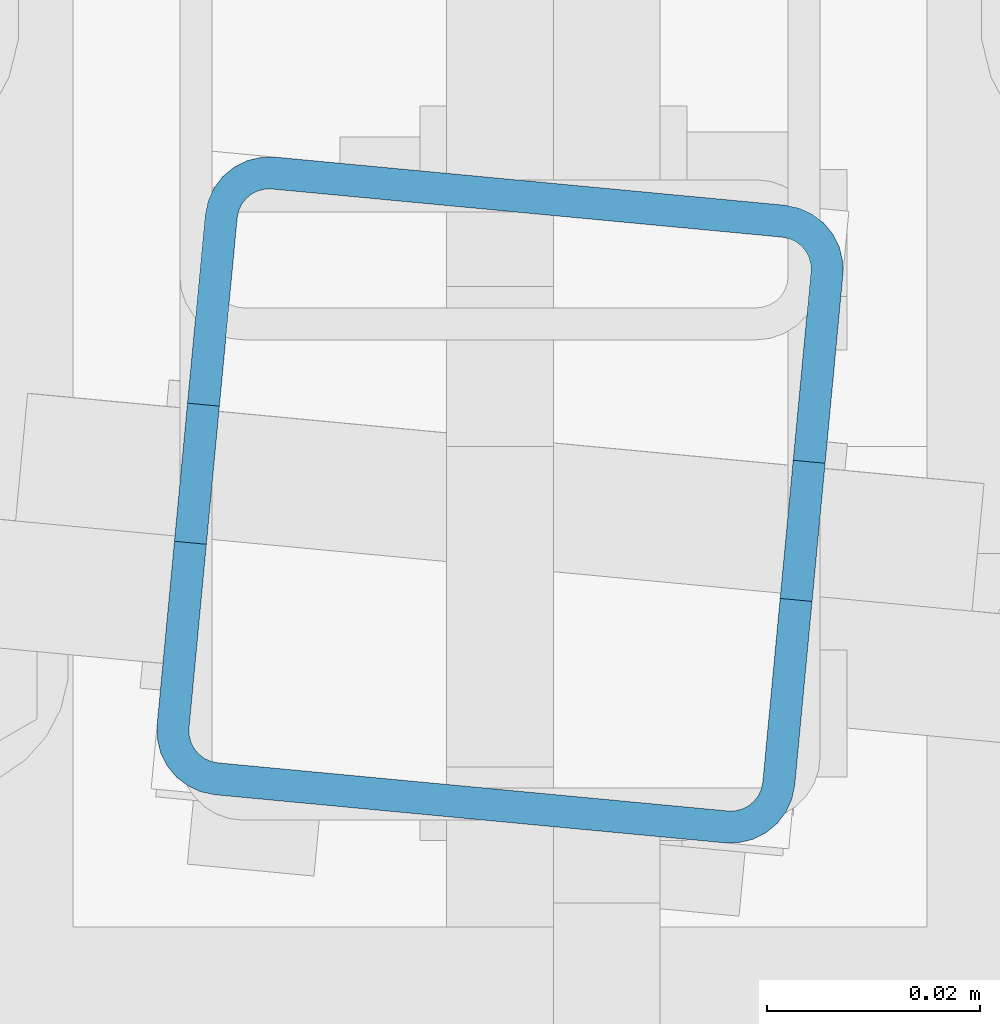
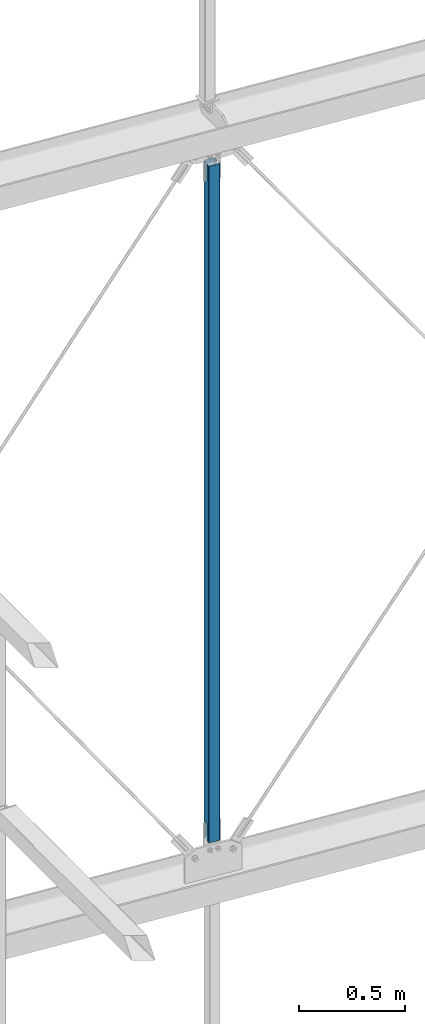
# One storey, part 33 of 271: 1 beam, 1 element without a shape of its own.
"""IFC2X3 building model written with IfcOpenShell, lengths in millimetres."""

from ifc_helpers import new_model, si_unit, frame, origin_with_axes, origin_2d_with_axis, place, context, subcontext, project, spatial, rectangle, hollow_rectangle, extrude, boolean, halfspace, material, type_object, element, aggregate, save


model = new_model("IFC2X3")

# Units and contexts
model_context = context("Model", 3, precision=1e-05, world=origin_with_axes())
body_context = subcontext(model_context, "Body", "Model", "MODEL_VIEW")
ifc_project = project(units=[si_unit("LENGTHUNIT", "METRE", prefix="MILLI"), si_unit("AREAUNIT", "SQUARE_METRE"), si_unit("VOLUMEUNIT", "CUBIC_METRE"), si_unit("MASSUNIT", "GRAM", prefix="KILO"), si_unit("TIMEUNIT", "SECOND"), si_unit("PLANEANGLEUNIT", "RADIAN"), si_unit("SOLIDANGLEUNIT", "STERADIAN"), si_unit("THERMODYNAMICTEMPERATUREUNIT", "DEGREE_CELSIUS"), si_unit("LUMINOUSINTENSITYUNIT", "LUMEN")], contexts=[model_context])

# Site, building, storey
site_placement = place(None, origin_with_axes())
site = spatial("IfcSite", under=ifc_project, at=site_placement, Name="Undefined", CompositionType="ELEMENT")
building_placement = place(site_placement, origin_with_axes())
building = spatial("IfcBuilding", under=site, at=building_placement, Name="Undefined", CompositionType="ELEMENT")
storey_placement = place(building_placement, origin_with_axes())
storey = spatial("IfcBuildingStorey", under=building, at=storey_placement, Name="Undefined", CompositionType="ELEMENT", Elevation=0.0)

# Assembly, beam
assembly_placement = place(storey_placement, origin_with_axes())
assembly = element("IfcElementAssembly", 1, at=assembly_placement, inside=storey, AssemblyPlace="NOTDEFINED", PredefinedType="RIGID_FRAME")
ifc_material = material(Name="STEEL/S355JR")
beam_type = type_object("IfcBeamType", Name="SHS60*3", PredefinedType="NOTDEFINED")
beam_placement = place(assembly_placement, frame((3168.37568709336, 4005.32498425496, 14324.3499999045), z_axis=(0.093934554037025, 0.995578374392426, 0.0), x_axis=(0.0, 0.0, 1.0)))
beam = element("IfcBeam", 2, at=beam_placement, type_object=beam_type, material=ifc_material, Name="TĘŻNIK", ObjectType="SHS60*3", context=body_context, shape_type="CSG", body=[
    boolean("DIFFERENCE", boolean("DIFFERENCE", boolean("DIFFERENCE", boolean("DIFFERENCE", extrude(hollow_rectangle(XDim=60.0, YDim=60.0, WallThickness=3.0, InnerFilletRadius=3.0, OuterFilletRadius=6.0, at=origin_2d_with_axis()), frame((4320.0, 0.0, 9.09494701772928e-13), z_axis=(-1.0, 0.0, 1.38777878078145e-17), x_axis=(0.0, -1.0, 0.0)), (0.0, 0.0, 1.0), 4320.0), extrude(rectangle(XDim=13.0, YDim=64.0, at=origin_2d_with_axis()), frame((313.312618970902, 2.39387509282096e-06, -0.199285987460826), z_axis=(-1.0, 0.0, 1.38777878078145e-17), x_axis=(0.0, 1.20121738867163e-05, -0.999999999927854)), (0.0, 0.0, 1.0), 103.0)), extrude(rectangle(XDim=13.0, YDim=64.0, at=origin_2d_with_axis()), frame((4006.68851017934, 2.57584542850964e-06, -0.214439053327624), z_axis=(1.0, 0.0, 0.0), x_axis=(0.0, 1.20121738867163e-05, -0.999999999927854)), (0.0, 0.0, 1.0), 103.0)), halfspace(frame((4107.68854069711, 0.000218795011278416, -18.2144390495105), z_axis=(-1.0, 0.0, 1.38777878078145e-17), x_axis=(0.0, 0.999999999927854, 1.20121738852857e-05)), True)), halfspace(frame((212.312618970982, 7.44668891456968e-05, -6.19928519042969), z_axis=(1.0, 0.0, 0.0), x_axis=(0.0, -0.999999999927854, -1.20121738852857e-05)), True)),
])
aggregate(assembly, [beam])

save(model, "model.ifc")
